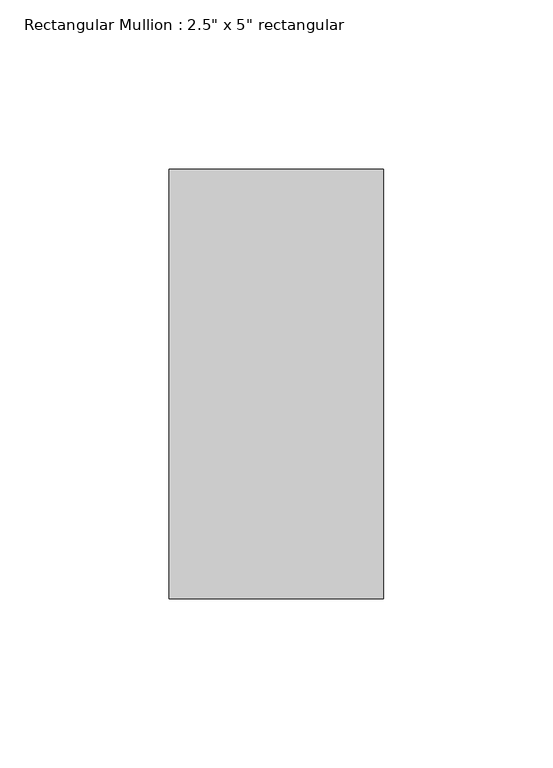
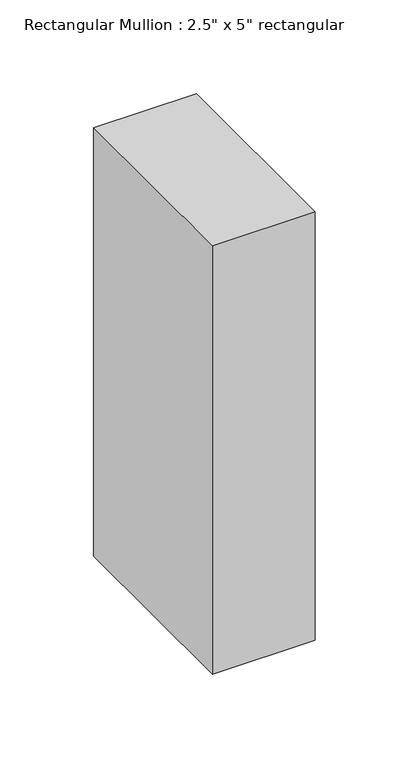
"""IFC4 building model written with IfcOpenShell, lengths in millimetres: member geometry."""

from ifc_helpers import new_model, si_unit, frame, origin, place, context, project, spatial, polyline, outline, extrude, source, transform, mapped, element, save


def member_6be37683(model_context):
    return source(origin(), model_context, "Body", "SweptSolid", [
        extrude(outline(polyline([(31.75, 63.5), (31.75, -63.5), (-31.75, -63.5), (-31.75, 63.5), (31.75, 63.5)])), frame((0.0, 0.0, -279.4), z_axis=(0.0, 0.0, 1.0), x_axis=(1.0, 0.0, 0.0)), (0.0, 0.0, 1.0), 279.4),
    ])


if __name__ == "__main__":
    model = new_model("IFC4")
    model_context = context("Model", 3, world=origin())
    ifc_project = project(units=[si_unit("LENGTHUNIT", "METRE", prefix="MILLI")], contexts=[model_context])
    site = spatial("IfcSite", under=ifc_project)
    building = spatial("IfcBuilding", under=site)
    placement = place(None, origin())
    member_shape = member_6be37683(model_context)
    element("IfcMember", 1, ObjectType="Rectangular Mullion : 2.5\" x 5\" rectangular", at=placement, inside=building, context=model_context, shape_type="MappedRepresentation", body=[
        mapped(member_shape, transform((0.0, 0.0, 0.0), x_axis=(1.0, 0.0, 0.0), y_axis=(0.0, 1.0, 0.0), z_axis=(0.0, 0.0, 1.0))),
    ])
    save(model, "model.ifc")
